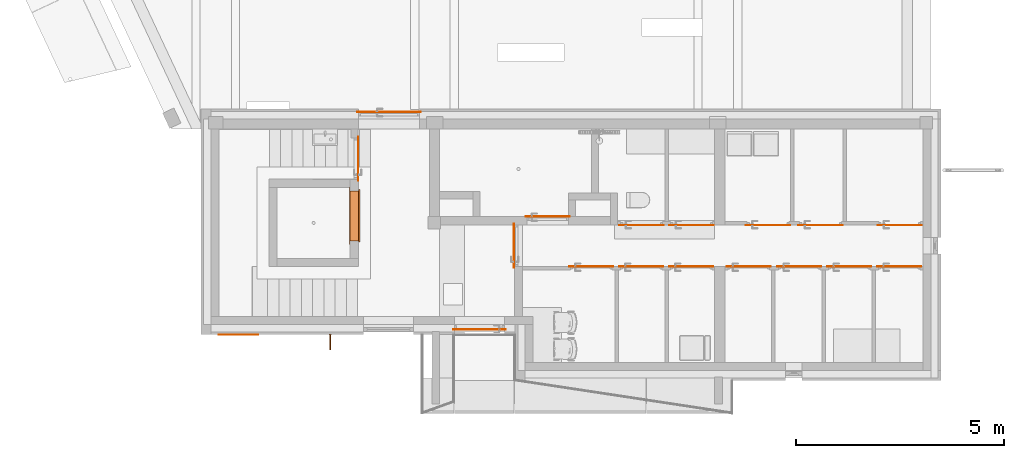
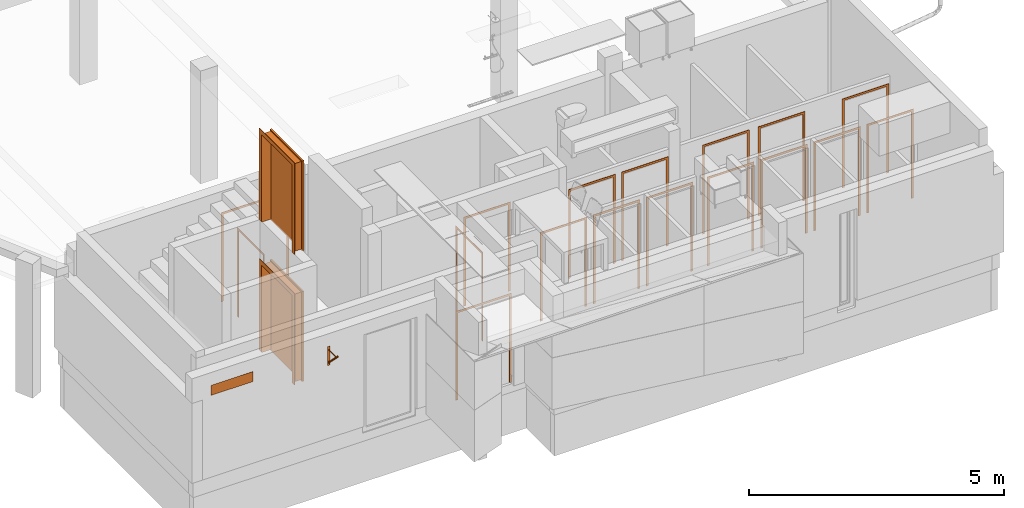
# One storey, part 21 of 55: 21 proxies.
"""IFC2X3 building model written with IfcOpenShell, lengths in millimetres."""

from ifc_helpers import new_model, entity, si_unit, converted_unit, direction, frame, frame_2d, origin, origin_2d_with_axis, place, context, subcontext, project, spatial, polyline, rectangle, hollow_circle, outline, extrude, source, transform, mapped, material, material_list, type_object, type_shapes, element, save


model = new_model("IFC2X3")

# Units and contexts
model_context = context("Model", 3, precision=0.01, world=origin(), true_north=direction((6.123233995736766e-17, 1.0)))
plan_context = context("Plan", 3, precision=0.01, world=origin(), true_north=direction((6.123233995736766e-17, 1.0)))
body_context = subcontext(model_context, "Body", "Model", "MODEL_VIEW")
ifc_project = project(units=[si_unit("LENGTHUNIT", "METRE", prefix="MILLI"), converted_unit("PLANEANGLEUNIT", "DEGREE", entity("IfcPlaneAngleMeasure", 0.017453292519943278), si_unit("PLANEANGLEUNIT", "RADIAN"), dimensions=[0, 0, 0, 0, 0, 0, 0]), si_unit("AREAUNIT", "SQUARE_METRE")], contexts=[model_context, plan_context])

# Site, building, storey, space
site_placement = place(None, origin())
site = spatial("IfcSite", under=ifc_project, at=site_placement, Name="Default", CompositionType="ELEMENT")
building_placement = place(site_placement, origin())
building = spatial("IfcBuilding", under=site, at=building_placement, CompositionType="ELEMENT")
storey_placement = place(building_placement, origin())
storey = spatial("IfcBuildingStorey", under=building, at=storey_placement, Name="1K", CompositionType="ELEMENT", Elevation=0.0)
space_1_placement = place(storey_placement, origin())
space_1 = spatial("IfcSpace", under=storey, at=space_1_placement, Name="1-0.4", CompositionType="ELEMENT", InteriorOrExteriorSpace="INTERNAL")

# Proxy
ifc_material_1 = material(Name="<Unnamed>")
building_element_proxy_type_1 = type_object("IfcBuildingElementProxyType", Name="Door-casing_Rectangle:Door-casing_Rectangle", PredefinedType="NOTDEFINED", material=ifc_material_1)
shared_shape_1 = source(origin(), body_context, "Body", "SweptSolid", [
    extrude(rectangle(XDim=9.999999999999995, YDim=49.99999999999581, at=origin_2d_with_axis()), frame((-505.0, 5.0, 0.0), z_axis=(0.0, 0.0, 1.0), x_axis=(0.0, 1.0, 0.0)), (0.0, 0.0, 1.0), 2130.000000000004),
    extrude(rectangle(XDim=9.999999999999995, YDim=50.0000000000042, at=origin_2d_with_axis()), frame((505.0, 5.0, 0.0), z_axis=(0.0, 0.0, 1.0), x_axis=(0.0, 1.0, 0.0)), (0.0, 0.0, 1.0), 2130.000000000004),
    extrude(rectangle(XDim=9.999999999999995, YDim=960.0000000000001, at=origin_2d_with_axis()), frame((0.0, 5.0, 2080.0), z_axis=(0.0, 0.0, 1.0), x_axis=(0.0, 1.0, 0.0)), (0.0, 0.0, 1.0), 50.000000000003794),
])
type_shapes(building_element_proxy_type_1, [shared_shape_1])
proxy_1_placement = place(space_1_placement, frame((7890.0, 4300.0, 0.0)))
element("IfcBuildingElementProxy", 1, at=proxy_1_placement, inside=space_1, type_object=building_element_proxy_type_1, material=ifc_material_1, Name="Door-casing_Rectangle:Door-casing_Rectangle", ObjectType="Door-casing_Rectangle:Door-casing_Rectangle", context=body_context, shape_type="MappedRepresentation", body=[
    mapped(shared_shape_1, transform((0.0, 0.0, 0.0), scale=1.0)),
])

# Space
space_2_placement = place(storey_placement, origin())
space_2 = spatial("IfcSpace", under=storey, at=space_2_placement, Name="1-0.1", CompositionType="ELEMENT", InteriorOrExteriorSpace="INTERNAL")

# Proxies
for number, where, z_axis, x_axis, name in (
    (2, (7090.0, 3600.0, 0.0), (0.0, 0.0, 1.0), (0.0, 1.0, 0.0), "Door-casing_Rectangle:Door-casing_Rectangle"),
    (3, (3339.9935349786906, 5689.99843361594, 0.0), (0.0, 0.0, 1.0), (0.0, -1.0, 0.0), "Door-casing_Rectangle:Door-casing_Rectangle"),
):
    element("IfcBuildingElementProxy", number, at=place(space_2_placement, frame(where, z_axis=z_axis, x_axis=x_axis)), inside=space_2, type_object=building_element_proxy_type_1, material=ifc_material_1, Name=name, ObjectType="Door-casing_Rectangle:Door-casing_Rectangle", context=body_context, shape_type="MappedRepresentation", body=[
        mapped(shared_shape_1, transform((0.0, 0.0, 0.0), scale=1.0)),
    ])
ifc_material_2 = material(Name="_K. Avatäited. Raam. Alumiinium")
building_element_proxy_type_2 = type_object("IfcBuildingElementProxyType", Name="Door-casing_Rectangle:Door-casing_Rectangle", PredefinedType="NOTDEFINED", material=ifc_material_2)
shared_shape_2 = source(origin(), body_context, "Body", "SweptSolid", [
    extrude(rectangle(XDim=9.999999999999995, YDim=49.99999999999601, at=frame_2d((0.0, 3.375077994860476e-14), x_axis=(1.0, 0.0))), frame((-605.0, 5.0, 0.0), z_axis=(0.0, 0.0, 1.0), x_axis=(0.0, 1.0, 0.0)), (0.0, 0.0, 1.0), 2130.000000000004),
    extrude(rectangle(XDim=9.999999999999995, YDim=50.00000000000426, at=frame_2d((0.0, -3.375077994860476e-14), x_axis=(1.0, 0.0))), frame((605.0, 5.0, 0.0), z_axis=(0.0, 0.0, 1.0), x_axis=(0.0, 1.0, 0.0)), (0.0, 0.0, 1.0), 2130.000000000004),
    extrude(rectangle(XDim=9.999999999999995, YDim=1160.0, at=origin_2d_with_axis()), frame((0.0, 5.0, 2080.0), z_axis=(0.0, 0.0, 1.0), x_axis=(0.0, 1.0, 0.0)), (0.0, 0.0, 1.0), 50.000000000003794),
])
type_shapes(building_element_proxy_type_2, [shared_shape_2])
proxy_2_placement = place(storey_placement, frame((6250.0, 1598.0, 0.0), z_axis=(0.0, 0.0, 1.0), x_axis=(-1.0, 0.0, 0.0)))
element("IfcBuildingElementProxy", 4, at=proxy_2_placement, inside=storey, type_object=building_element_proxy_type_2, material=ifc_material_2, Name="Door-casing_Rectangle:Door-casing_Rectangle", ObjectType="Door-casing_Rectangle:Door-casing_Rectangle", context=body_context, shape_type="MappedRepresentation", body=[
    mapped(shared_shape_2, transform((0.0, 0.0, 0.0), scale=1.0)),
])
building_element_proxy_type_3 = type_object("IfcBuildingElementProxyType", Name="Door-casing_Rectangle:Door-casing_Rectangle", PredefinedType="NOTDEFINED", material=ifc_material_2)
shared_shape_3 = source(origin(), body_context, "Body", "SweptSolid", [
    extrude(rectangle(XDim=9.999999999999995, YDim=49.99999999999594, at=origin_2d_with_axis()), frame((-740.0, 5.0, 0.0), z_axis=(0.0, 0.0, 1.0), x_axis=(0.0, 1.0, 0.0)), (0.0, 0.0, 1.0), 2130.000000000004),
    extrude(rectangle(XDim=9.999999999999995, YDim=50.000000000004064, at=origin_2d_with_axis()), frame((740.0, 5.0, 0.0), z_axis=(0.0, 0.0, 1.0), x_axis=(0.0, 1.0, 0.0)), (0.0, 0.0, 1.0), 2130.000000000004),
    extrude(rectangle(XDim=9.999999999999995, YDim=1430.0, at=origin_2d_with_axis()), frame((0.0, 5.0, 2080.0), z_axis=(0.0, 0.0, 1.0), x_axis=(0.0, 1.0, 0.0)), (0.0, 0.0, 1.0), 50.000000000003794),
])
type_shapes(building_element_proxy_type_3, [shared_shape_3])
proxy_3_placement = place(storey_placement, frame((4085.0, 6811.000000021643, 0.0)))
element("IfcBuildingElementProxy", 5, at=proxy_3_placement, inside=storey, type_object=building_element_proxy_type_3, material=ifc_material_2, Name="Door-casing_Rectangle:Door-casing_Rectangle", ObjectType="Door-casing_Rectangle:Door-casing_Rectangle", context=body_context, shape_type="MappedRepresentation", body=[
    mapped(shared_shape_3, transform((0.0, 0.0, 0.0), scale=1.0)),
])

# Space
space_3_placement = place(storey_placement, origin())
space_3 = spatial("IfcSpace", under=storey, at=space_3_placement, Name="1-0.5", CompositionType="ELEMENT", InteriorOrExteriorSpace="INTERNAL")

# Proxies
ifc_material_3 = material(Name="_K. Metall. Plekk. Tsingitud")
building_element_proxy_type_4 = type_object("IfcBuildingElementProxyType", Name="Door-casing_Rectangle:Door-casing_Rectangle", PredefinedType="NOTDEFINED", material=ifc_material_3)
shared_shape_4 = source(origin(), body_context, "Body", "SweptSolid", [
    extrude(rectangle(XDim=9.999999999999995, YDim=49.99999999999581, at=origin_2d_with_axis()), frame((-505.0, 5.0, 0.0), z_axis=(0.0, 0.0, 1.0), x_axis=(0.0, 1.0, 0.0)), (0.0, 0.0, 1.0), 2130.000000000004),
    extrude(rectangle(XDim=9.999999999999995, YDim=50.0000000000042, at=origin_2d_with_axis()), frame((505.0, 5.0, 0.0), z_axis=(0.0, 0.0, 1.0), x_axis=(0.0, 1.0, 0.0)), (0.0, 0.0, 1.0), 2130.000000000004),
    extrude(rectangle(XDim=9.999999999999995, YDim=960.0000000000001, at=origin_2d_with_axis()), frame((0.0, 5.0, 2080.0), z_axis=(0.0, 0.0, 1.0), x_axis=(0.0, 1.0, 0.0)), (0.0, 0.0, 1.0), 50.000000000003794),
])
type_shapes(building_element_proxy_type_4, [shared_shape_4])
for number, where, name in (
    (6, (15130.0, 3099.999959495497, 0.0), "Door-casing_Rectangle:Door-casing_Rectangle"),
    (7, (16330.0, 3099.9999594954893, 0.0), "Door-casing_Rectangle:Door-casing_Rectangle"),
    (8, (13930.0, 3099.999959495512, 0.0), "Door-casing_Rectangle:Door-casing_Rectangle"),
    (9, (12714.995060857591, 3099.9999594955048, 0.0), "Door-casing_Rectangle:Door-casing_Rectangle"),
    (10, (11334.99506085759, 3099.999959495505, 0.0), "Door-casing_Rectangle:Door-casing_Rectangle"),
    (11, (10134.99506085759, 3099.999959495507, 0.0), "Door-casing_Rectangle:Door-casing_Rectangle"),
    (12, (8934.995060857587, 3099.9999594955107, 0.0), "Door-casing_Rectangle:Door-casing_Rectangle"),
):
    element("IfcBuildingElementProxy", number, at=place(space_3_placement, frame(where)), inside=space_3, type_object=building_element_proxy_type_4, material=ifc_material_3, Name=name, ObjectType="Door-casing_Rectangle:Door-casing_Rectangle", context=body_context, shape_type="MappedRepresentation", body=[
        mapped(shared_shape_4, transform((0.0, 0.0, 0.0), scale=1.0)),
    ])
for number, where, z_axis, x_axis, name in (
    (13, (14440.0, 4099.999959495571, 0.0), (0.0, 0.0, 1.0), (-1.0, 0.0, 0.0), "Door-casing_Rectangle:Door-casing_Rectangle"),
    (14, (16340.0, 4099.999959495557, 0.0), (0.0, 0.0, 1.0), (-1.0, 0.0, 0.0), "Door-casing_Rectangle:Door-casing_Rectangle"),
    (15, (13180.0, 4099.999959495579, 0.0), (0.0, 0.0, 1.0), (-1.0, 0.0, 0.0), "Door-casing_Rectangle:Door-casing_Rectangle"),
    (16, (11344.995060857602, 4099.999959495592, 0.0), (0.0, 0.0, 1.0), (-1.0, 0.0, 0.0), "Door-casing_Rectangle:Door-casing_Rectangle"),
    (17, (10144.995060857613, 4099.999959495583, 0.0), (0.0, 0.0, 1.0), (-1.0, 0.0, 0.0), "Door-casing_Rectangle:Door-casing_Rectangle"),
):
    element("IfcBuildingElementProxy", number, at=place(space_3_placement, frame(where, z_axis=z_axis, x_axis=x_axis)), inside=space_3, type_object=building_element_proxy_type_4, material=ifc_material_3, Name=name, ObjectType="Door-casing_Rectangle:Door-casing_Rectangle", context=body_context, shape_type="MappedRepresentation", body=[
        mapped(shared_shape_4, transform((0.0, 0.0, 0.0), scale=1.0)),
    ])

# Space
space_4_placement = place(storey_placement, origin())
space_4 = spatial("IfcSpace", under=storey, at=space_4_placement, Name="1-0.2", CompositionType="ELEMENT", InteriorOrExteriorSpace="INTERNAL")

# Proxies
building_element_proxy_type_5 = type_object("IfcBuildingElementProxyType", Name="HR_Elevator-door_v1:Default", PredefinedType="NOTDEFINED", material=ifc_material_1)
shared_shape_5 = source(origin(), body_context, "Body", "SweptSolid", [
    extrude(rectangle(XDim=39.999999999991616, YDim=630.0000000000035, at=origin_2d_with_axis()), frame((-190.0, -120.00000000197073, -30.0), z_axis=(0.0, 0.0, 1.0), x_axis=(0.0, 1.0, 0.0)), (0.0, 0.0, 1.0), 2160.000000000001),
    extrude(rectangle(XDim=39.999999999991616, YDim=629.9999999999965, at=origin_2d_with_axis()), frame((440.0, -120.00000000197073, -30.0), z_axis=(0.0, 0.0, 1.0), x_axis=(0.0, 1.0, 0.0)), (0.0, 0.0, 1.0), 2160.000000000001),
    extrude(outline(polyline([(-690.0, -1070.0), (-590.0, -1070.0), (-590.0, 1020.0), (590.0, 1020.0), (590.0, -1070.0), (690.0, -1070.0), (690.0, 1120.0), (-690.0, 1120.0), (-690.0, -1070.0)])), frame((125.0, 99.99999999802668, 1070.0), z_axis=(0.0, 1.0, 0.0), x_axis=(-1.0, 0.0, 0.0)), (0.0, 0.0, 1.0), 10.000000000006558),
    extrude(outline(polyline([(-1052.5000000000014, -600.0), (1047.5, -600.0), (1047.4999999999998, -590.0), (-1042.4999999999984, -590.0), (-1042.4999999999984, 590.0), (1047.4999999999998, 590.0), (1047.5, 600.0), (-1052.5000000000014, 600.0), (-1052.5000000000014, -600.0)])), frame((125.0, -100.00000000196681, 1047.5000000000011), z_axis=(0.0, 1.0, 0.0), x_axis=(0.0, 0.0, -1.0)), (0.0, 0.0, 1.0), 199.99999999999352),
])
type_shapes(building_element_proxy_type_5, [shared_shape_5])
for number, where, z_axis, x_axis, name in (
    (18, (3249.9935349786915, 4195.0, 0.0), (0.0, 0.0, 1.0), (0.0, 1.0, 0.0), "HR_Elevator-door_v1:Default"),
    (19, (3249.9935349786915, 4195.0, 3125.0), (0.0, 0.0, 1.0), (0.0, 1.0, 0.0), "HR_Elevator-door_v1:Default"),
):
    element("IfcBuildingElementProxy", number, at=place(space_4_placement, frame(where, z_axis=z_axis, x_axis=x_axis)), inside=space_4, type_object=building_element_proxy_type_5, material=ifc_material_1, Name=name, ObjectType="HR_Elevator-door_v1:Default", context=body_context, shape_type="MappedRepresentation", body=[
        mapped(shared_shape_5, transform((0.0, 0.0, 0.0), scale=1.0)),
    ])
building_element_proxy_type_6 = type_object("IfcBuildingElementProxyType", Name="Lipualus_seinale:Lipualus_seinale", PredefinedType="NOTDEFINED", material=ifc_material_1)
shared_shape_6 = source(origin(), body_context, "Body", "SweptSolid", [
    extrude(rectangle(XDim=59.595164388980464, YDim=450.0244341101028, at=origin_2d_with_axis()), frame((0.0, 0.0, 0.0), z_axis=(0.0, 0.0, 1.0), x_axis=(-1.0, 0.0, 0.0)), (0.0, 0.0, 1.0), 5.0),
    extrude(hollow_circle(Radius=20.0, WallThickness=2.5, at=frame_2d((0.0, -3.231119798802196e-14), x_axis=(1.0, 0.0))), frame((0.02206282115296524, 157.88246117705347, 2.882461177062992), z_axis=(0.0, -0.7071067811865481, 0.707106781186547), x_axis=(0.0, 0.707106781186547, 0.7071067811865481)), (0.0, 0.0, 1.0), 499.99999999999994),
    extrude(outline(polyline([(-10.0, -152.33125881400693), (10.0, -152.33125881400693), (10.0, 142.3312588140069), (-10.0, 162.33125881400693), (-10.0, -152.33125881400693)])), frame((-5.0, -144.66251762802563, 157.33125881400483), z_axis=(1.0, 0.0, 0.0), x_axis=(0.0, 1.0, 0.0)), (0.0, 0.0, 1.0), 10.0),
])
type_shapes(building_element_proxy_type_6, [shared_shape_6])
proxy_4_placement = place(storey_placement, frame((2670.0, 1470.0, 2174.9877829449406), z_axis=(0.0, -1.0, 0.0), x_axis=(-1.0, 0.0, 0.0)))
element("IfcBuildingElementProxy", 20, at=proxy_4_placement, inside=storey, type_object=building_element_proxy_type_6, material=ifc_material_1, Name="Lipualus_seinale:Lipualus_seinale", ObjectType="Lipualus_seinale:Lipualus_seinale", context=body_context, shape_type="MappedRepresentation", body=[
    mapped(shared_shape_6, transform((0.0, 0.0, 0.0), scale=1.0)),
])
ifc_material_4 = material(Name="_HR. Metal. Paint. Tänavasilt. Sinine")
ifc_material_5 = material(Name="_HR. Metal. Paint. Tänavasilt. Valge")
ifc_material_list = material_list([ifc_material_4, ifc_material_5])
building_element_proxy_type_7 = type_object("IfcBuildingElementProxyType", Name="Tänavasilt.Aadress_ja_majanumber:Standard. H320 mm x L(700+400) mm", PredefinedType="NOTDEFINED", material=ifc_material_list)
shared_shape_7 = source(origin(), body_context, "Body", "SweptSolid", [
    extrude(outline(polyline([(-76.65516257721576, -20.30218104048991), (43.89240960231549, -20.30218104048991), (43.89240960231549, -10.59009636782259), (27.852754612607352, 2.815523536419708), (13.755516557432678, 24.9031585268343), (-0.48887429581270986, 24.9031585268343), (7.118925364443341, 9.040086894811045), (17.287183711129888, -5.233734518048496), (-76.65516257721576, -5.233734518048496), (-76.65516257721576, -20.30218104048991)])), frame((127.15300313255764, 23.617943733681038, 0.0), z_axis=(0.0, 0.0, 1.0), x_axis=(0.0, 1.0, 0.0)), (0.0, 0.0, 1.0), 3.1),
    extrude(outline(polyline([(-1.369858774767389, -43.664248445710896), (13.698587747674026, -43.664248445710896), (13.698587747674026, -15.410911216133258), (28.767034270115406, -15.410911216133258), (28.767034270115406, -0.34246469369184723), (13.698587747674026, -0.34246469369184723), (13.698587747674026, 74.99976791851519), (2.397252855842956, 74.99976791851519), (-55.99297741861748, -0.34246469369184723), (-55.99297741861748, -15.410911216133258), (-1.369858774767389, -15.410911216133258), (-1.369858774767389, -43.664248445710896)]), holes=[polyline([(-1.369858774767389, -0.34246469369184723), (-37.45172486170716, -0.34246469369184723), (-1.369858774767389, 46.216680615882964), (-1.369858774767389, -0.34246469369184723)])]), frame((233.58505463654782, -9.37297039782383, 0.0)), (0.0, 0.0, 1.0), 3.1),
    extrude(rectangle(XDim=349.9999999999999, YDim=239.99999999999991, at=origin_2d_with_axis()), frame((175.0, 0.0, 0.0), z_axis=(0.0, 0.0, 1.0), x_axis=(-1.0, 0.0, 0.0)), (0.0, 0.0, 1.0), 3.000000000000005),
    extrude(outline(polyline([(-41.47501613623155, -59.74648856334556), (-26.406569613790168, -59.74648856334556), (-26.406569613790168, -18.308260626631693), (-6.128914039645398, 1.0570475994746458), (39.929911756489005, -59.74648856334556), (58.35344207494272, -59.74648856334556), (4.554379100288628, 11.240021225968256), (56.46988625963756, 60.80108361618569), (35.397605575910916, 60.80108361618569), (-26.406569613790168, 1.7928115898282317), (-26.406569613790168, 60.80108361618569), (-41.47501613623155, 60.80108361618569), (-41.47501613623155, -59.74648856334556)])), frame((-375.53870091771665, 6.709269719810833, 0.0)), (0.0, 0.0, 1.0), 3.1),
    extrude(rectangle(XDim=15.06844652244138, YDim=88.52712331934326, at=origin_2d_with_axis()), frame((-300.2332565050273, -8.77365718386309, 0.0)), (0.0, 0.0, 1.0), 3.1),
    extrude(rectangle(XDim=15.06844652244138, YDim=88.52712331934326, at=origin_2d_with_axis()), frame((-262.56214019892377, -8.77365718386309, 0.0)), (0.0, 0.0, 1.0), 3.1),
    extrude(rectangle(XDim=15.06844652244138, YDim=120.54757217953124, at=origin_2d_with_axis()), frame((-224.89102389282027, 7.236567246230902, 0.0)), (0.0, 0.0, 1.0), 3.1),
    extrude(rectangle(XDim=15.06844652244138, YDim=88.52712331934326, at=origin_2d_with_axis()), frame((-187.21990758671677, -8.77365718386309, 0.0)), (0.0, 0.0, 1.0), 3.1),
    extrude(rectangle(XDim=15.06844652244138, YDim=15.068446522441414, at=origin_2d_with_axis()), frame((-300.2332565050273, 59.97613007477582, 0.0)), (0.0, 0.0, 1.0), 3.1),
    extrude(rectangle(XDim=15.06844652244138, YDim=15.068446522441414, at=origin_2d_with_axis()), frame((-262.56214019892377, 59.97613007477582, 0.0)), (0.0, 0.0, 1.0), 3.1),
    extrude(rectangle(XDim=15.06844652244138, YDim=15.068446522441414, at=origin_2d_with_axis()), frame((-187.21990758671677, 59.97613007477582, 0.0)), (0.0, 0.0, 1.0), 3.1),
    extrude(rectangle(XDim=599.9999999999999, YDim=239.99999999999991, at=origin_2d_with_axis()), frame((-300.0, 0.0, 0.0), z_axis=(0.0, 0.0, 1.0), x_axis=(-1.0, 0.0, 0.0)), (0.0, 0.0, 1.0), 3.000000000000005),
])
type_shapes(building_element_proxy_type_7, [shared_shape_7])
proxy_5_placement = place(storey_placement, frame((600.0, 1470.0, 2280.0), z_axis=(0.0, -1.0, 0.0), x_axis=(1.0, 0.0, 0.0)))
element("IfcBuildingElementProxy", 21, at=proxy_5_placement, inside=storey, type_object=building_element_proxy_type_7, material=ifc_material_list, Name="Tänavasilt.Aadress_ja_majanumber:Standard. H320 mm x L(700+400) mm", ObjectType="Tänavasilt.Aadress_ja_majanumber:Standard. H320 mm x L(700+400) mm", context=body_context, shape_type="MappedRepresentation", body=[
    mapped(shared_shape_7, transform((0.0, 0.0, 0.0), scale=1.0)),
])

save(model, "model.ifc")
